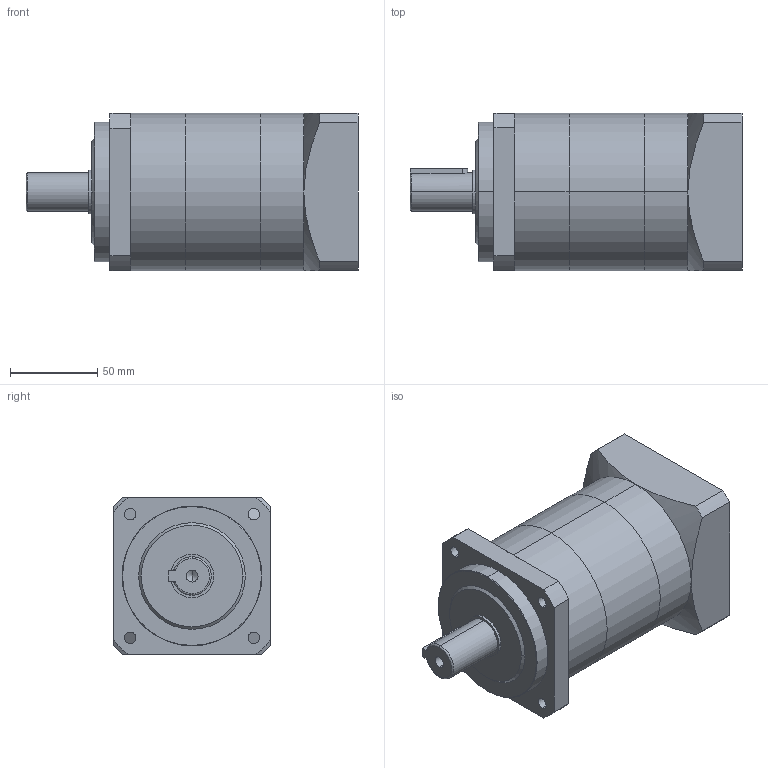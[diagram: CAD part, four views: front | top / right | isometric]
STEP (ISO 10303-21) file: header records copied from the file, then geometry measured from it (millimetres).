
FILE_DESCRIPTION (( 'STEP AP203' ), '1' );
FILE_NAME ('TB-090-L2-19-70-90-M6(勤腔).STEP', '2025-05-28T01:50:05', ( 'Microsoft' ), ( 'Microsoft' ), 'SwSTEP 2.0', 'SolidWorks 2016', '' );
FILE_SCHEMA (( 'CONFIG_CONTROL_DESIGN' ));
Length unit declared in the file: millimetre
Products named in the file (1): TB-090-L2-19-70-90-M6(勤腔)
Bounding box: 190 x 90 x 90 mm (x, y, z)
Volume: 963160.7 mm3; surface area: 103192.7 mm2
Topology: 3 solids, 3 shells, 97 faces, 229 edges, 141 vertices
Faces by surface type: cylinder 47, plane 29, cone 18, bspline 3
Entity records: 2972 total; most frequent: CARTESIAN_POINT 639, DIRECTION 507, ORIENTED_EDGE 438, EDGE_CURVE 219, AXIS2_PLACEMENT_3D 207, VERTEX_POINT 141, EDGE_LOOP 118, CIRCLE 112
